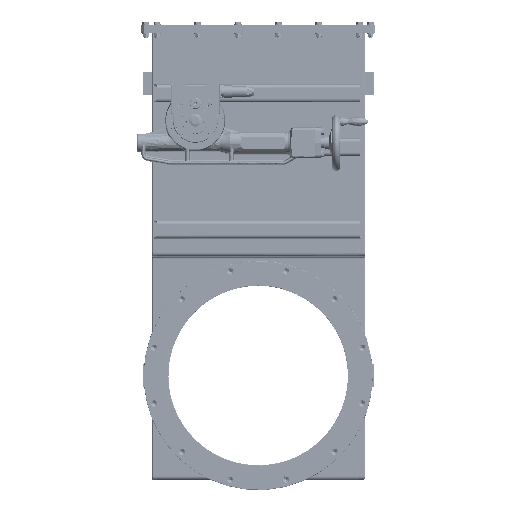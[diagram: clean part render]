
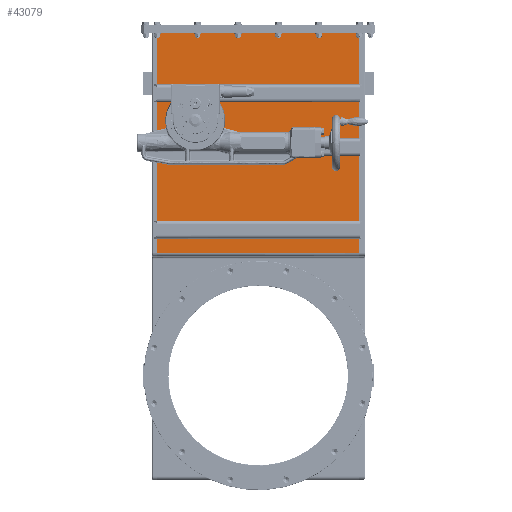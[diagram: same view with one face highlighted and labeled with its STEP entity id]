
A CAD part, top view. The second image highlights one B-rep face of the part: STEP entity #43079.
In plain terms, the highlighted free-form (B-spline) face has degree [1, 1] with [2, 2] control points.
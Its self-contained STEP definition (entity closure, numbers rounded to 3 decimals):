
#42325=CARTESIAN_POINT('V36',(-221.55,0.,
   -140.0));
#42326=VERTEX_POINT('V36',#42325);
#42332=CARTESIAN_POINT('E54',(-221.55,0.,
   -140.0));
#42333=CARTESIAN_POINT('E54',(-221.55,0.,
   -187.718));
#42334=CARTESIAN_POINT('E54',(-180.225,0.,
   -163.859));
#42335=CARTESIAN_POINT('E54',(-138.9,0.,
   -140.));
#42336=CARTESIAN_POINT('E54',(-180.225,0.,
   -116.141));
#42337=CARTESIAN_POINT('E54',(-221.55,0.,
   -92.282));
#42338=CARTESIAN_POINT('E54',(-221.55,0.,
   -140.0));
#42346=(BOUNDED_CURVE()B_SPLINE_CURVE(2,(#42332,#42333,#42334,
   #42335,#42336,#42337,#42338),.CIRCULAR_ARC.,.T.,.U.)
   B_SPLINE_CURVE_WITH_KNOTS((3,2,2,3),(0.0,0.333,
   0.667,1.0),.UNSPECIFIED.)CURVE()
   GEOMETRIC_REPRESENTATION_ITEM()RATIONAL_B_SPLINE_CURVE((1.0,
   0.5,1.0,0.5,1.0,0.5,1.0)
   )REPRESENTATION_ITEM('E54'));
#42347=EDGE_CURVE('E54',#42326,#42326,#42346,.T.);
#42693=CARTESIAN_POINT('V17',(-489.,0.,
   -225.125));
#42694=VERTEX_POINT('V17',#42693);
#42708=CARTESIAN_POINT('V28',(-489.,0.,
   225.125));
#42709=VERTEX_POINT('V28',#42708);
#42710=CARTESIAN_POINT('E46',(-489.,0.,
   -225.125));
#42711=CARTESIAN_POINT('E46',(-489.,0.,
   225.125));
#42712=QUASI_UNIFORM_CURVE('E46',1,(#42710,#42711),.POLYLINE_FORM.,
   .F.,.U.);
#42713=EDGE_CURVE('E46',#42694,#42709,#42712,.T.);
#42767=CARTESIAN_POINT('V27',(0.0,0.0,225.125));
#42768=VERTEX_POINT('V27',#42767);
#42769=CARTESIAN_POINT('E31',(0.0,0.0,225.125));
#42770=CARTESIAN_POINT('E31',(-489.,0.,
   225.125));
#42771=QUASI_UNIFORM_CURVE('E31',1,(#42769,#42770),.POLYLINE_FORM.,
   .F.,.U.);
#42772=EDGE_CURVE('E31',#42768,#42709,#42771,.T.);
#42831=CARTESIAN_POINT('V18',(0.0,0.0,-225.125));
#42832=VERTEX_POINT('V18',#42831);
#42846=CARTESIAN_POINT('E43',(0.0,0.0,-225.125));
#42847=CARTESIAN_POINT('E43',(0.0,0.0,225.125));
#42848=QUASI_UNIFORM_CURVE('E43',1,(#42846,#42847),.POLYLINE_FORM.,
   .F.,.U.);
#42849=EDGE_CURVE('E43',#42832,#42768,#42848,.T.);
#43049=CARTESIAN_POINT('E20',(-489.,0.,
   -225.125));
#43050=CARTESIAN_POINT('E20',(0.0,0.0,-225.125));
#43051=QUASI_UNIFORM_CURVE('E20',1,(#43049,#43050),.POLYLINE_FORM.,
   .F.,.U.);
#43052=EDGE_CURVE('E20',#42694,#42832,#43051,.T.);
#43065=CARTESIAN_POINT('F20',(0.0,0.0,-225.125));
#43066=CARTESIAN_POINT('F20',(-489.,0.,
   -225.125));
#43067=CARTESIAN_POINT('F20',(0.0,0.0,225.125));
#43068=CARTESIAN_POINT('F20',(-489.,0.,
   225.125));
#43069=QUASI_UNIFORM_SURFACE('F20',1,1,((#43065,#43067),(#43066,
   #43068)),.PLANE_SURF.,.F.,.F.,.U.);
#43070=ORIENTED_EDGE('E20',*,*,#43052,.T.);
#43071=ORIENTED_EDGE('F9',*,*,#42849,.T.);
#43072=ORIENTED_EDGE('E31',*,*,#42772,.T.);
#43073=ORIENTED_EDGE('E46',*,*,#42713,.F.);
#43074=EDGE_LOOP('F20',(#43070,#43071,#43072,#43073));
#43075=FACE_OUTER_BOUND('F20',#43074,.F.);
#43076=ORIENTED_EDGE('E54',*,*,#42347,.F.);
#43077=EDGE_LOOP('F20',(#43076));
#43078=FACE_BOUND('F20',#43077,.F.);
#43079=ADVANCED_FACE('F20',(#43075,#43078),#43069,.T.);
